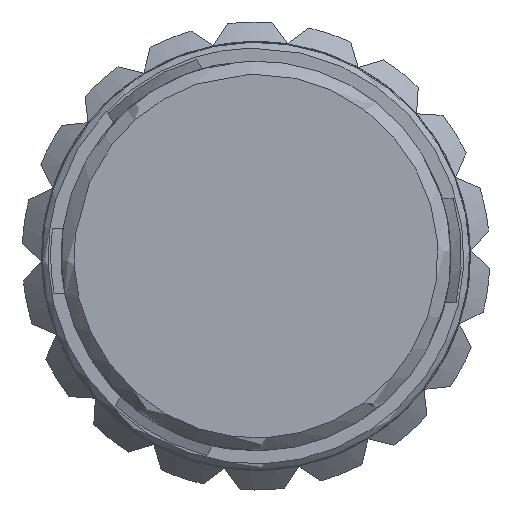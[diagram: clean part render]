
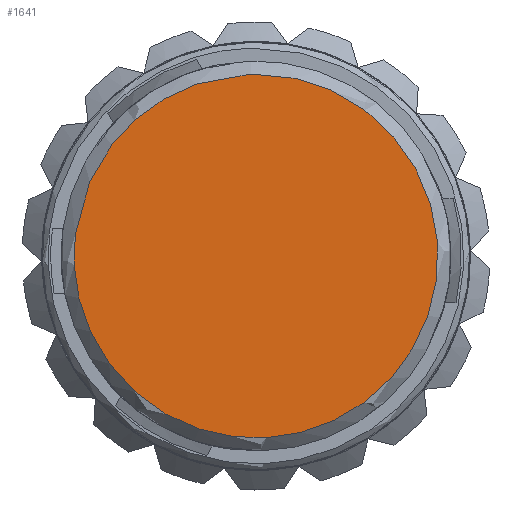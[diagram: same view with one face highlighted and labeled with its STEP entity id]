
A CAD part, left-side view. The second image highlights one B-rep face of the part: STEP entity #1641.
In plain terms, the highlighted planar face has unit normal (-1, 0, 0) as drawn and (0, 0, 1) by its records, which use the part's own axes.
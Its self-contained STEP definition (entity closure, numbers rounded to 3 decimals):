
#564 = CARTESIAN_POINT ( 'NONE',  ( 7., 0., 58. ) ) ;
#781 = VERTEX_POINT ( 'NONE', #11996 ) ;
#1641 = ADVANCED_FACE ( 'NONE', ( #4383 ), #17551, .F. ) ;
#1823 = CARTESIAN_POINT ( 'NONE',  ( -7., 0., 58. ) ) ;
#3102 = EDGE_CURVE ( 'NONE', #781, #781, #5846, .T. ) ;
#3393 = CARTESIAN_POINT ( 'NONE',  ( -7., 14., 58. ) ) ;
#4066 = CARTESIAN_POINT ( 'NONE',  ( 0., 0., 58. ) ) ;
#4383 = FACE_OUTER_BOUND ( 'NONE', #7545, .T. ) ;
#4898 = AXIS2_PLACEMENT_3D ( 'NONE', #4066, #5441, #8418 ) ;
#5441 = DIRECTION ( 'NONE',  ( 0., 0., -1. ) ) ;
#5826 = CARTESIAN_POINT ( 'NONE',  ( -7., -14., 58. ) ) ;
#5846 =( BOUNDED_CURVE ( )  B_SPLINE_CURVE ( 3, ( #564, #14131, #5826, #1823, #3393, #15513, #6013 ),
 .UNSPECIFIED., .T., .F. ) 
 B_SPLINE_CURVE_WITH_KNOTS ( ( 4, 3, 4 ),
 ( 0., 0.5, 1. ),
 .UNSPECIFIED. ) 
 CURVE ( )  GEOMETRIC_REPRESENTATION_ITEM ( )  RATIONAL_B_SPLINE_CURVE ( ( 1., 0.333, 0.333, 1., 0.333, 0.333, 1. ) ) 
 REPRESENTATION_ITEM ( '' )  );
#6013 = CARTESIAN_POINT ( 'NONE',  ( 7., 0., 58. ) ) ;
#6436 = ORIENTED_EDGE ( 'NONE', *, *, #3102, .F. ) ;
#7545 = EDGE_LOOP ( 'NONE', ( #6436 ) ) ;
#8418 = DIRECTION ( 'NONE',  ( -1., 0., 0. ) ) ;
#11996 = CARTESIAN_POINT ( 'NONE',  ( 7., 0., 58. ) ) ;
#14131 = CARTESIAN_POINT ( 'NONE',  ( 7., -14., 58. ) ) ;
#15513 = CARTESIAN_POINT ( 'NONE',  ( 7., 14., 58. ) ) ;
#17551 = PLANE ( 'NONE',  #4898 ) ;
